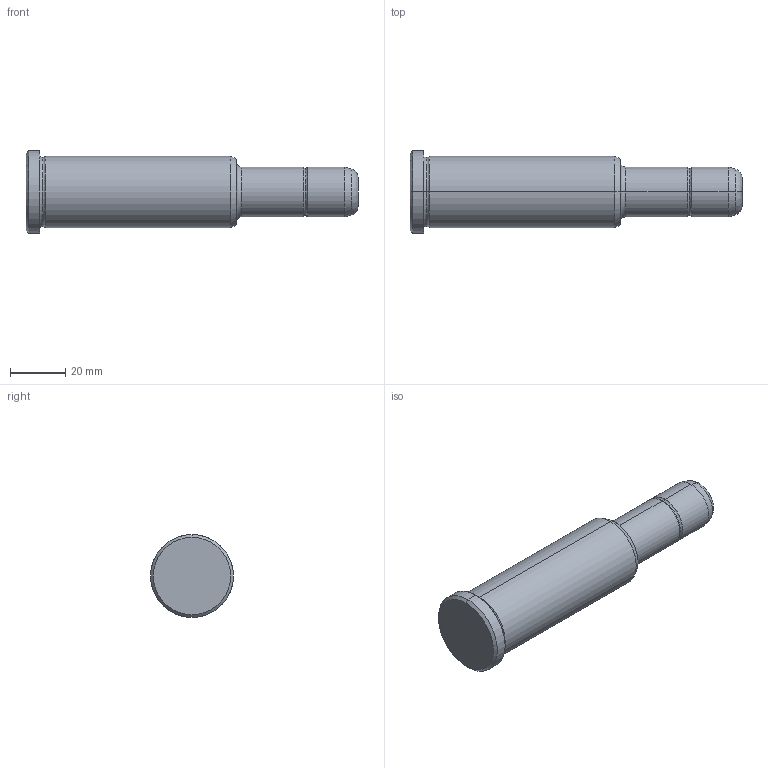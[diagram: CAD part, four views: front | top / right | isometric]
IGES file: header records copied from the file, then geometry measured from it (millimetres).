
Start section: START RECORD GO HERE.
Global section: file name: 351-18X76X120.igs; native system: DASSAULT SYSTEMES CATIA V5 R20 - www.3ds.com; preprocessor: CATIA Version 5 Release 20 ; author: Utente; organization: NB04-ASUS; date: 20210827.131913; units: millimetre
Bounding box: 120 x 30 x 30 mm (x, y, z)
Surface area: 9921.1 mm2 (no closed solid volume)
Topology: 0 solids, 0 shells, 30 faces, 172 edges, 172 vertices
Faces by surface type: revolution 26, plane 4
